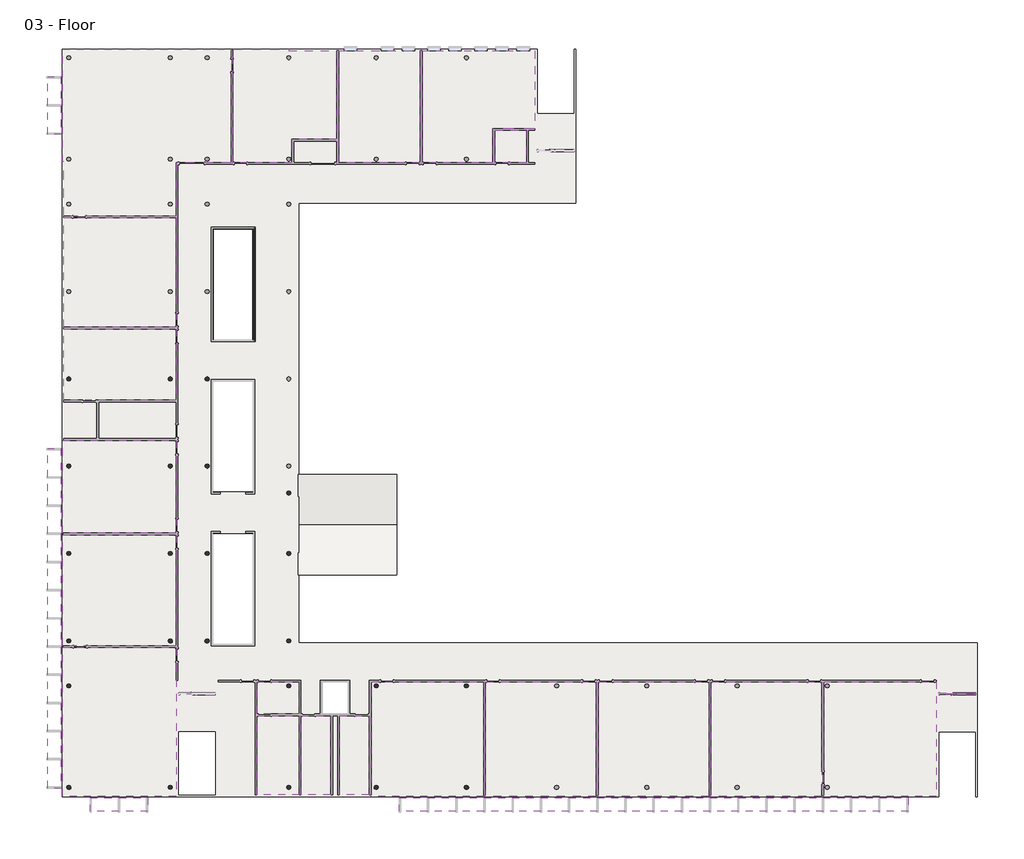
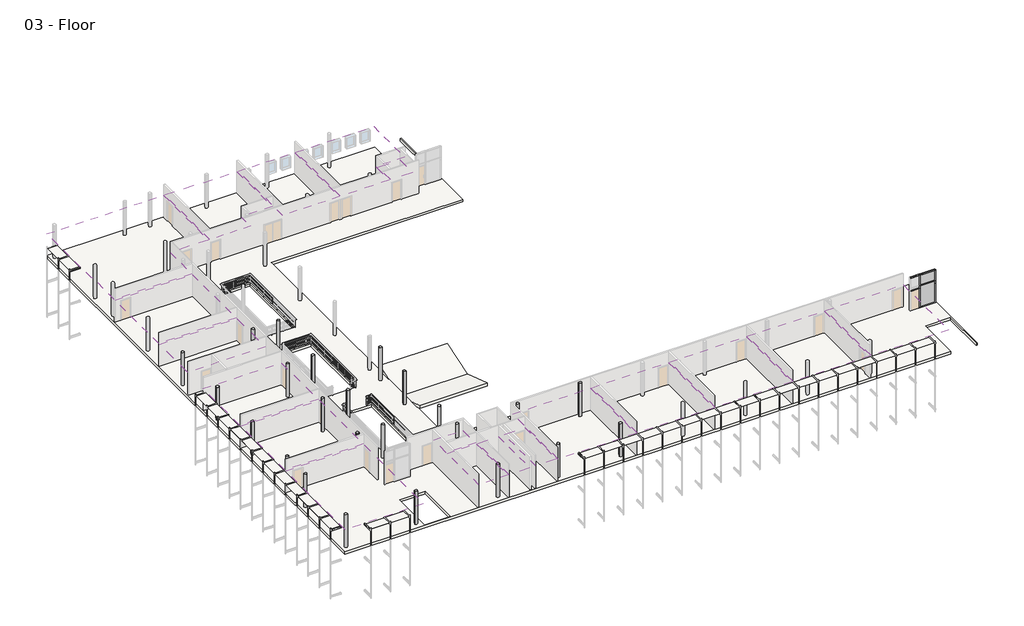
# One storey, part 3 of 4: 24 columns, 19 coverings, 13 members, 5 slabs, 2 plates, 1 roof.
"""IFC4 building model written with IfcOpenShell, lengths in millimetres."""

import ifcopenshell
import ifcopenshell.guid

model = None  # the IFC model being written
_history = None  # IfcOwnerHistory: only IFC2X3 demands one
_inside = {}  # id of a spatial element -> (the spatial element, [elements in it])
_under = {}  # id of a project, library or spatial element -> (it, [spatial elements below it])
_declared = {}  # id of a project -> (the project, [libraries it declares])
_typed = {}  # id of a type object -> (the type object, [elements of that type])
_made_of = {}  # id of a material, layer set ... -> (it, [elements and type objects made of it])


def new_model(schema):
    """Start an empty IFC model of exactly this schema.

    Asked for "IFC4X3", IfcOpenShell would pick the latest addendum, in which some entities
    have other attributes; the version numbers below select the first issue.
    IFC2X3 requires an IfcOwnerHistory on every rooted entity: one is made here for all.
    """
    global model, _history
    if schema == "IFC4X3":
        model = ifcopenshell.file(schema_version=(4, 3, 0, 0))
    else:
        model = ifcopenshell.file(schema=schema)
    _inside.clear()
    _under.clear()
    _declared.clear()
    _typed.clear()
    _made_of.clear()
    _history = None
    if model.schema == "IFC2X3":
        org = make("IfcOrganization", Name="unknown")
        user = make(
            "IfcPersonAndOrganization",
            ThePerson=make("IfcPerson", FamilyName="unknown"),
            TheOrganization=org,
        )
        app = make(
            "IfcApplication",
            ApplicationDeveloper=org,
            Version="unknown",
            ApplicationFullName="unknown",
            ApplicationIdentifier="unknown",
        )
        _history = make(
            "IfcOwnerHistory",
            OwningUser=user,
            OwningApplication=app,
            ChangeAction="ADDED",
            CreationDate=0,
        )
    return model


def make(cls, **values):
    """One entity of the class cls with the attributes given. An attribute that is None is left unset."""
    return model.create_entity(
        cls, **{name: value for name, value in values.items() if value is not None}
    )


def rooted(cls, **values):
    """An entity with a GlobalId (a new one), such as an element, a storey or a relation."""
    return make(cls, GlobalId=ifcopenshell.guid.new(), OwnerHistory=_history, **values)


def si_unit(unit_type, name, prefix=None):
    """IfcSIUnit, for example si_unit("LENGTHUNIT", "METRE", prefix="MILLI")."""
    return make("IfcSIUnit", UnitType=unit_type, Prefix=prefix, Name=name)


def assignment(units):
    """IfcUnitAssignment: the units of a project."""
    return None if units is None else make("IfcUnitAssignment", Units=units)


def point(xyz):
    """IfcCartesianPoint."""
    return None if xyz is None else make("IfcCartesianPoint", Coordinates=xyz)


def direction(xyz):
    """IfcDirection."""
    return None if xyz is None else make("IfcDirection", DirectionRatios=xyz)


def frame(location, z_axis=None, x_axis=None):
    """IfcAxis2Placement3D, a coordinate frame: its origin and axes. An axis left out is left unset."""
    return make(
        "IfcAxis2Placement3D",
        Location=point(location),
        Axis=direction(z_axis),
        RefDirection=direction(x_axis),
    )


def frame_2d(location, x_axis=None):
    """IfcAxis2Placement2D, a coordinate frame in the plane: its origin and x axis."""
    return make(
        "IfcAxis2Placement2D", Location=point(location), RefDirection=direction(x_axis)
    )


def origin():
    """The frame at (0, 0, 0) with its axes left unset."""
    return frame((0.0, 0.0, 0.0))


def place(relative_to, where):
    """IfcLocalPlacement: puts the frame where relative to a parent placement (None: the world)."""
    return make(
        "IfcLocalPlacement", PlacementRelTo=relative_to, RelativePlacement=where
    )


def context(
    kind, dimensions, precision=None, world=None, true_north=None, identifier=None
):
    """IfcGeometricRepresentationContext, for example the 3D "Model" context."""
    return make(
        "IfcGeometricRepresentationContext",
        ContextIdentifier=identifier,
        ContextType=kind,
        CoordinateSpaceDimension=dimensions,
        Precision=precision,
        WorldCoordinateSystem=world,
        TrueNorth=true_north,
    )


def project(units=None, contexts=None):
    """IfcProject with its units and contexts."""
    return rooted(
        "IfcProject",
        Name="project",
        RepresentationContexts=contexts,
        UnitsInContext=assignment(units),
    )


def spatial(cls, under=None, at=None, **own):
    """A site, building, storey or space (cls), placed at a placement, below another one or the project."""
    s = rooted(cls, ObjectPlacement=at, **own)
    if under is not None:
        _under.setdefault(under.id(), (under, []))[1].append(s)
    return s


def polyline(points):
    """IfcPolyline through the points."""
    return make("IfcPolyline", Points=[point(p) for p in points])


def circle_curve(where, radius):
    """IfcCircle in the frame where."""
    return make("IfcCircle", Position=where, Radius=radius)


def trimmed(basis, trim1, trim2, sense, master):
    """IfcTrimmedCurve: the piece of a basis curve between two trims."""
    return make(
        "IfcTrimmedCurve",
        BasisCurve=basis,
        Trim1=trim1,
        Trim2=trim2,
        SenseAgreement=sense,
        MasterRepresentation=master,
    )


def segment(curve, same_sense, transition):
    """IfcCompositeCurveSegment."""
    return make(
        "IfcCompositeCurveSegment",
        Transition=transition,
        SameSense=same_sense,
        ParentCurve=curve,
    )


def composite_curve(segments, self_intersect=None):
    """IfcCompositeCurve: segments joined end to end."""
    return make("IfcCompositeCurve", Segments=segments, SelfIntersect=self_intersect)


def outline(outer, holes=None, kind="AREA"):
    """IfcArbitraryClosedProfileDef: a profile drawn as a closed curve; with holes, ...WithVoids."""
    if holes is None:
        return make("IfcArbitraryClosedProfileDef", ProfileType=kind, OuterCurve=outer)
    return make(
        "IfcArbitraryProfileDefWithVoids",
        ProfileType=kind,
        OuterCurve=outer,
        InnerCurves=holes,
    )


def extrude(swept, where, along, depth):
    """IfcExtrudedAreaSolid: the profile swept, set in the frame where, extruded along a direction by depth."""
    return make(
        "IfcExtrudedAreaSolid",
        SweptArea=swept,
        Position=where,
        ExtrudedDirection=direction(along),
        Depth=depth,
    )


def shape(context_of_items, identifier, shape_type, items):
    """IfcShapeRepresentation: the items that make up one representation, for example the "Body"."""
    return make(
        "IfcShapeRepresentation",
        ContextOfItems=context_of_items,
        RepresentationIdentifier=identifier,
        RepresentationType=shape_type,
        Items=items,
    )


def source(mapping_origin, context_of_items, identifier, shape_type, items):
    """IfcRepresentationMap: a shape defined once, which mapped items show again and again."""
    return make(
        "IfcRepresentationMap",
        MappingOrigin=mapping_origin,
        MappedRepresentation=shape(context_of_items, identifier, shape_type, items),
    )


def transform(
    local_origin,
    x_axis=None,
    y_axis=None,
    z_axis=None,
    scale=None,
    scale2=None,
    scale3=None,
    uniform=True,
):
    """IfcCartesianTransformationOperator3D, or its non-uniform kind. x_axis, y_axis, z_axis: its Axis1, 2, 3."""
    if uniform:
        return make(
            "IfcCartesianTransformationOperator3D",
            Axis1=direction(x_axis),
            Axis2=direction(y_axis),
            LocalOrigin=point(local_origin),
            Scale=scale,
            Axis3=direction(z_axis),
        )
    return make(
        "IfcCartesianTransformationOperator3DnonUniform",
        Axis1=direction(x_axis),
        Axis2=direction(y_axis),
        LocalOrigin=point(local_origin),
        Scale=scale,
        Axis3=direction(z_axis),
        Scale2=scale2,
        Scale3=scale3,
    )


def mapped(mapping_source, mapping_target):
    """IfcMappedItem: shows the shape of a source again, moved by a transform."""
    return make(
        "IfcMappedItem", MappingSource=mapping_source, MappingTarget=mapping_target
    )


def made_of(thing, what):
    """Note that an element or type object is made of a material, layer set ...; save() writes the relation."""
    if what is not None:
        _made_of.setdefault(what.id(), (what, []))[1].append(thing)
    return thing


def element(
    cls,
    number,
    at=None,
    inside=None,
    cuts=None,
    type_object=None,
    material=None,
    context=None,
    identifier="Body",
    shape_type=None,
    held_by="IfcProductDefinitionShape",
    body=None,
    shapes=None,
    **own,
):
    """One element of the class cls, such as IfcWall. Its Tag is "e" and its number.

    at: its placement. inside: the storey or other place that contains it. cuts: it is an
    opening in that element (IfcRelVoidsElement). A single representation is given by context,
    identifier, shape_type and body (its items); several are given by shapes. held_by: the class
    of the entity that holds the representations. save() writes the other relations.
    """
    e = rooted(cls, Tag="e%d" % number, ObjectPlacement=at, **own)
    if body is not None:
        shapes = [shape(context, identifier, shape_type, body)]
    if shapes is not None:
        e.Representation = make(held_by, Representations=shapes)
    if inside is not None:
        _inside.setdefault(inside.id(), (inside, []))[1].append(e)
    if cuts is not None:
        rooted(
            "IfcRelVoidsElement", RelatingBuildingElement=cuts, RelatedOpeningElement=e
        )
    if type_object is not None:
        _typed.setdefault(type_object.id(), (type_object, []))[1].append(e)
    return made_of(e, material)


def aggregate(whole, parts):
    """IfcRelAggregates: a whole, such as a stair, and the parts it consists of."""
    return rooted("IfcRelAggregates", RelatingObject=whole, RelatedObjects=parts)


def save(model, path):
    """Write the relations noted so far, then the file.

    IfcRelAggregates (storeys below a building ...), IfcRelContainedInSpatialStructure (elements
    in a storey), IfcRelDefinesByType, IfcRelAssociatesMaterial and IfcRelDeclares: one each for
    every whole, place, type object, material and project.
    """
    for whole, parts in _under.values():
        aggregate(whole, parts)
    for where, things in _inside.values():
        rooted(
            "IfcRelContainedInSpatialStructure",
            RelatedElements=things,
            RelatingStructure=where,
        )
    for kind, things in _typed.values():
        rooted("IfcRelDefinesByType", RelatedObjects=things, RelatingType=kind)
    for what, things in _made_of.values():
        rooted("IfcRelAssociatesMaterial", RelatedObjects=things, RelatingMaterial=what)
    for by, libraries in _declared.values():
        rooted("IfcRelDeclares", RelatingContext=by, RelatedDefinitions=libraries)
    model.write(path)


def member_2b49869a(model_context):
    return source(origin(), model_context, "Body", "SweptSolid", [
        extrude(outline(polyline([(31.75, 63.5), (31.75, -63.5), (-31.75, -63.5), (-31.75, 63.5), (31.75, 63.5)])), frame((0.0, 0.0, -1219.2), z_axis=(0.0, 0.0, 1.0), x_axis=(1.0, 0.0, 0.0)), (0.0, 0.0, 1.0), 1219.2),
    ])


def member_75074519(model_context):
    return source(origin(), model_context, "Body", "SweptSolid", [
        extrude(outline(polyline([(0.0, 63.5), (0.0, -63.5), (-63.5, -63.5), (-63.5, 63.5), (0.0, 63.5)])), frame((0.0, 0.0, -1219.2), z_axis=(0.0, 0.0, 1.0), x_axis=(1.0, 0.0, 0.0)), (0.0, 0.0, 1.0), 1219.2),
    ])


def member_410c6227(model_context):
    return source(origin(), model_context, "Body", "SweptSolid", [
        extrude(outline(polyline([(31.75, 63.5), (31.75, -63.5), (-31.75, -63.5), (-31.75, 63.5), (31.75, 63.5)])), frame((0.0, 0.0, -914.4), z_axis=(0.0, 0.0, 1.0), x_axis=(1.0, 0.0, 0.0)), (0.0, 0.0, 1.0), 914.4),
    ])


def member_73c23c35(model_context):
    return source(origin(), model_context, "Body", "SweptSolid", [
        extrude(outline(polyline([(0.0, 63.5), (0.0, -63.5), (-63.5, -63.5), (-63.5, 63.5), (0.0, 63.5)])), frame((0.0, 0.0, -914.4), z_axis=(0.0, 0.0, 1.0), x_axis=(1.0, 0.0, 0.0)), (0.0, 0.0, 1.0), 914.4),
    ])


def member_6186cc23(model_context):
    return source(origin(), model_context, "Body", "SweptSolid", [
        extrude(outline(polyline([(31.75, 63.5), (31.75, -63.5), (-31.75, -63.5), (-31.75, 63.5), (31.75, 63.5)])), frame((0.0, 0.0, -2165.35), z_axis=(0.0, 0.0, 1.0), x_axis=(1.0, 0.0, 0.0)), (0.0, 0.0, 1.0), 2165.35),
    ])


def member_5d67b9fc(model_context):
    return source(origin(), model_context, "Body", "SweptSolid", [
        extrude(outline(polyline([(31.75, 63.5), (31.75, -63.5), (-31.75, -63.5), (-31.75, 63.5), (31.75, 63.5)])), frame((0.0, 0.0, -273.05), z_axis=(0.0, 0.0, 1.0), x_axis=(1.0, 0.0, 0.0)), (0.0, 0.0, 1.0), 273.05),
    ])


def member_a50b3cda(model_context):
    return source(origin(), model_context, "Body", "SweptSolid", [
        extrude(outline(polyline([(0.0, 63.5), (0.0, -63.5), (-63.5, -63.5), (-63.5, 63.5), (0.0, 63.5)])), frame((0.0, 0.0, -2165.35), z_axis=(0.0, 0.0, 1.0), x_axis=(1.0, 0.0, 0.0)), (0.0, 0.0, 1.0), 2165.35),
    ])


def member_c327c56d(model_context):
    return source(origin(), model_context, "Body", "SweptSolid", [
        extrude(outline(polyline([(0.0, 63.5), (0.0, -63.5), (-63.5, -63.5), (-63.5, 63.5), (0.0, 63.5)])), frame((0.0, 0.0, -273.05), z_axis=(0.0, 0.0, 1.0), x_axis=(1.0, 0.0, 0.0)), (0.0, 0.0, 1.0), 273.05),
    ])


def member_6c34f49c(model_context):
    return source(origin(), model_context, "Body", "SweptSolid", [
        extrude(outline(polyline([(0.0, 63.5), (0.0, -63.5), (-63.5, -63.5), (-63.5, 63.5), (0.0, 63.5)])), frame((0.0, 0.0, -285.75), z_axis=(0.0, 0.0, 1.0), x_axis=(1.0, 0.0, 0.0)), (0.0, 0.0, 1.0), 285.75),
    ])


def member_dff87739(model_context):
    return source(origin(), model_context, "Body", "SweptSolid", [
        extrude(outline(polyline([(31.75, 63.5), (31.75, -63.5), (-31.75, -63.5), (-31.75, 63.5), (31.75, 63.5)])), frame((0.0, 0.0, -285.75), z_axis=(0.0, 0.0, 1.0), x_axis=(1.0, 0.0, 0.0)), (0.0, 0.0, 1.0), 285.75),
    ])


def member_76223ac8(model_context):
    return source(origin(), model_context, "Body", "SweptSolid", [
        extrude(outline(polyline([(31.75, 63.5), (31.75, -63.5), (-31.75, -63.5), (-31.75, 63.5), (31.75, 63.5)])), frame((0.0, 0.0, -1263.65), z_axis=(0.0, 0.0, 1.0), x_axis=(1.0, 0.0, 0.0)), (0.0, 0.0, 1.0), 1263.65),
    ])


def member_e7b2e991(model_context):
    return source(origin(), model_context, "Body", "SweptSolid", [
        extrude(outline(polyline([(0.0, 63.5), (0.0, -63.5), (-63.5, -63.5), (-63.5, 63.5), (0.0, 63.5)])), frame((0.0, 0.0, -1263.65), z_axis=(0.0, 0.0, 1.0), x_axis=(1.0, 0.0, 0.0)), (0.0, 0.0, 1.0), 1263.65),
    ])


def system_panel_glazed_00df446d(model_context):
    return source(origin(), model_context, "Body", "SweptSolid", [
        extrude(outline(polyline([(0.0, -774.7), (0.0, -488.95), (0.0, 774.7), (2101.85, 774.7), (2343.15, 774.7), (2343.15, -488.95), (2343.15, -774.7), (2101.85, -774.7), (0.0, -774.7)])), frame((0.0, 19.05, 0.0), z_axis=(0.0, 1.0, 0.0), x_axis=(0.0, 0.0, 1.0)), (0.0, 0.0, 1.0), 25.4),
    ])


def system_panel_glazed_835a6d4f(model_context):
    return source(origin(), model_context, "Body", "SweptSolid", [
        extrude(outline(polyline([(0.0, -774.7), (0.0, -488.95), (0.0, 774.7), (1123.95, 774.7), (1123.95, -488.95), (1123.95, -774.7), (0.0, -774.7)])), frame((0.0, 19.05, 0.0), z_axis=(0.0, 1.0, 0.0), x_axis=(0.0, 0.0, 1.0)), (0.0, 0.0, 1.0), 25.4),
    ])


model = new_model("IFC4")

# Units and contexts
model_context = context("Model", 3, world=origin())
ifc_project = project(units=[si_unit("LENGTHUNIT", "METRE", prefix="MILLI")], contexts=[model_context])

# Site, building, storey
site = spatial("IfcSite", under=ifc_project)
building = spatial("IfcBuilding", under=site)
storey = spatial("IfcBuildingStorey", under=building, Name="03 - Floor", Elevation=7315.2)

# Columns
placement = place(None, origin())
element("IfcColumn", 1, ObjectType="Concrete-Round-Column : 12\"", at=placement, inside=storey, context=model_context, shape_type="SweptSolid", body=[
    extrude(outline(composite_curve([segment(trimmed(circle_curve(frame_2d((635.9207476, 30064.0)), 152.4), [point((788.3207476, 30064.0))], [point((483.5207476, 30064.0))], False, "CARTESIAN"), True, "CONTINUOUS"), segment(trimmed(circle_curve(frame_2d((635.9207476, 30064.0)), 152.4), [point((483.5207476, 30064.0))], [point((788.3207476, 30064.0))], False, "CARTESIAN"), True, "CONTINUOUS")], self_intersect=False)), frame((0.0, 0.0, 7315.2), z_axis=(0.0, 0.0, 1.0), x_axis=(1.0, 0.0, 0.0)), (0.0, 0.0, 1.0), 3657.6),
])
element("IfcColumn", 2, ObjectType="Concrete-Round-Column : 12\"", at=placement, inside=storey, context=model_context, shape_type="SweptSolid", body=[
    extrude(outline(composite_curve([segment(trimmed(circle_curve(frame_2d((635.9207476, 23764.8)), 152.4), [point((788.3207476, 23764.8))], [point((483.5207476, 23764.8))], False, "CARTESIAN"), True, "CONTINUOUS"), segment(trimmed(circle_curve(frame_2d((635.9207476, 23764.8)), 152.4), [point((483.5207476, 23764.8))], [point((788.3207476, 23764.8))], False, "CARTESIAN"), True, "CONTINUOUS")], self_intersect=False)), frame((0.0, 0.0, 7315.2), z_axis=(0.0, 0.0, 1.0), x_axis=(1.0, 0.0, 0.0)), (0.0, 0.0, 1.0), 3657.6),
])
element("IfcColumn", 3, ObjectType="Concrete-Round-Column : 12\"", at=placement, inside=storey, context=model_context, shape_type="SweptSolid", body=[
    extrude(outline(composite_curve([segment(trimmed(circle_curve(frame_2d((635.9207476, 17465.6)), 152.4), [point((788.3207476, 17465.6))], [point((483.5207476, 17465.6))], False, "CARTESIAN"), True, "CONTINUOUS"), segment(trimmed(circle_curve(frame_2d((635.9207476, 17465.6)), 152.4), [point((483.5207476, 17465.6))], [point((788.3207476, 17465.6))], False, "CARTESIAN"), True, "CONTINUOUS")], self_intersect=False)), frame((0.0, 0.0, 7315.2), z_axis=(0.0, 0.0, 1.0), x_axis=(1.0, 0.0, 0.0)), (0.0, 0.0, 1.0), 3657.6),
])
element("IfcColumn", 4, ObjectType="Concrete-Round-Column : 12\"", at=placement, inside=storey, context=model_context, shape_type="SweptSolid", body=[
    extrude(outline(composite_curve([segment(trimmed(circle_curve(frame_2d((635.9207476, 11166.4)), 152.4), [point((788.3207476, 11166.4))], [point((483.5207476, 11166.4))], False, "CARTESIAN"), True, "CONTINUOUS"), segment(trimmed(circle_curve(frame_2d((635.9207476, 11166.4)), 152.4), [point((483.5207476, 11166.4))], [point((788.3207476, 11166.4))], False, "CARTESIAN"), True, "CONTINUOUS")], self_intersect=False)), frame((0.0, 0.0, 7315.2), z_axis=(0.0, 0.0, 1.0), x_axis=(1.0, 0.0, 0.0)), (0.0, 0.0, 1.0), 3657.6),
])
element("IfcColumn", 5, ObjectType="Concrete-Round-Column : 12\"", at=placement, inside=storey, context=model_context, shape_type="SweptSolid", body=[
    extrude(outline(composite_curve([segment(trimmed(circle_curve(frame_2d((635.9207476, 7915.2)), 152.4), [point((788.3207476, 7915.2))], [point((483.5207476, 7915.2))], False, "CARTESIAN"), True, "CONTINUOUS"), segment(trimmed(circle_curve(frame_2d((635.9207476, 7915.2)), 152.4), [point((483.5207476, 7915.2))], [point((788.3207476, 7915.2))], False, "CARTESIAN"), True, "CONTINUOUS")], self_intersect=False)), frame((0.0, 0.0, 7315.2), z_axis=(0.0, 0.0, 1.0), x_axis=(1.0, 0.0, 0.0)), (0.0, 0.0, 1.0), 3657.6),
])
element("IfcColumn", 6, ObjectType="Concrete-Round-Column : 12\"", at=placement, inside=storey, context=model_context, shape_type="SweptSolid", body=[
    extrude(outline(composite_curve([segment(trimmed(circle_curve(frame_2d((635.9207476, 600.0)), 152.4), [point((788.3207476, 600.0))], [point((483.5207476, 600.0))], False, "CARTESIAN"), True, "CONTINUOUS"), segment(trimmed(circle_curve(frame_2d((635.9207476, 600.0)), 152.4), [point((483.5207476, 600.0))], [point((788.3207476, 600.0))], False, "CARTESIAN"), True, "CONTINUOUS")], self_intersect=False)), frame((0.0, 0.0, 7315.2), z_axis=(0.0, 0.0, 1.0), x_axis=(1.0, 0.0, 0.0)), (0.0, 0.0, 1.0), 3657.6),
])
element("IfcColumn", 7, ObjectType="Concrete-Round-Column : 12\"", at=placement, inside=storey, context=model_context, shape_type="SweptSolid", body=[
    extrude(outline(composite_curve([segment(trimmed(circle_curve(frame_2d((10592.7207476, 30064.0)), 152.4), [point((10745.1207476, 30064.0))], [point((10440.3207476, 30064.0))], False, "CARTESIAN"), True, "CONTINUOUS"), segment(trimmed(circle_curve(frame_2d((10592.7207476, 30064.0)), 152.4), [point((10440.3207476, 30064.0))], [point((10745.1207476, 30064.0))], False, "CARTESIAN"), True, "CONTINUOUS")], self_intersect=False)), frame((0.0, 0.0, 7315.2), z_axis=(0.0, 0.0, 1.0), x_axis=(1.0, 0.0, 0.0)), (0.0, 0.0, 1.0), 3657.6),
])
element("IfcColumn", 8, ObjectType="Concrete-Round-Column : 12\"", at=placement, inside=storey, context=model_context, shape_type="SweptSolid", body=[
    extrude(outline(composite_curve([segment(trimmed(circle_curve(frame_2d((10592.7207476, 23764.8)), 152.4), [point((10745.1207476, 23764.8))], [point((10440.3207476, 23764.8))], False, "CARTESIAN"), True, "CONTINUOUS"), segment(trimmed(circle_curve(frame_2d((10592.7207476, 23764.8)), 152.4), [point((10440.3207476, 23764.8))], [point((10745.1207476, 23764.8))], False, "CARTESIAN"), True, "CONTINUOUS")], self_intersect=False)), frame((0.0, 0.0, 7315.2), z_axis=(0.0, 0.0, 1.0), x_axis=(1.0, 0.0, 0.0)), (0.0, 0.0, 1.0), 3657.6),
])
element("IfcColumn", 9, ObjectType="Concrete-Round-Column : 12\"", at=placement, inside=storey, context=model_context, shape_type="SweptSolid", body=[
    extrude(outline(composite_curve([segment(trimmed(circle_curve(frame_2d((10592.7207476, 17465.6)), 152.4), [point((10745.1207476, 17465.6))], [point((10440.3207476, 17465.6))], False, "CARTESIAN"), True, "CONTINUOUS"), segment(trimmed(circle_curve(frame_2d((10592.7207476, 17465.6)), 152.4), [point((10440.3207476, 17465.6))], [point((10745.1207476, 17465.6))], False, "CARTESIAN"), True, "CONTINUOUS")], self_intersect=False)), frame((0.0, 0.0, 7315.2), z_axis=(0.0, 0.0, 1.0), x_axis=(1.0, 0.0, 0.0)), (0.0, 0.0, 1.0), 3657.6),
])
element("IfcColumn", 10, ObjectType="Concrete-Round-Column : 12\"", at=placement, inside=storey, context=model_context, shape_type="SweptSolid", body=[
    extrude(outline(composite_curve([segment(trimmed(circle_curve(frame_2d((10592.7207476, 11166.4)), 152.4), [point((10745.1207476, 11166.4))], [point((10440.3207476, 11166.4))], False, "CARTESIAN"), True, "CONTINUOUS"), segment(trimmed(circle_curve(frame_2d((10592.7207476, 11166.4)), 152.4), [point((10440.3207476, 11166.4))], [point((10745.1207476, 11166.4))], False, "CARTESIAN"), True, "CONTINUOUS")], self_intersect=False)), frame((0.0, 0.0, 7315.2), z_axis=(0.0, 0.0, 1.0), x_axis=(1.0, 0.0, 0.0)), (0.0, 0.0, 1.0), 3657.6),
])
element("IfcColumn", 11, ObjectType="Concrete-Round-Column : 12\"", at=placement, inside=storey, context=model_context, shape_type="SweptSolid", body=[
    extrude(outline(composite_curve([segment(trimmed(circle_curve(frame_2d((16485.5207476, 17465.6)), 152.4), [point((16637.9207476, 17465.6))], [point((16333.1207476, 17465.6))], False, "CARTESIAN"), True, "CONTINUOUS"), segment(trimmed(circle_curve(frame_2d((16485.5207476, 17465.6)), 152.4), [point((16333.1207476, 17465.6))], [point((16637.9207476, 17465.6))], False, "CARTESIAN"), True, "CONTINUOUS")], self_intersect=False)), frame((0.0, 0.0, 7315.2), z_axis=(0.0, 0.0, 1.0), x_axis=(1.0, 0.0, 0.0)), (0.0, 0.0, 1.0), 3657.6),
])
element("IfcColumn", 12, ObjectType="Concrete-Round-Column : 12\"", at=placement, inside=storey, context=model_context, shape_type="SweptSolid", body=[
    extrude(outline(composite_curve([segment(trimmed(circle_curve(frame_2d((16485.5207476, 11166.4)), 152.4), [point((16637.9207476, 11166.4))], [point((16333.1207476, 11166.4))], False, "CARTESIAN"), True, "CONTINUOUS"), segment(trimmed(circle_curve(frame_2d((16485.5207476, 11166.4)), 152.4), [point((16333.1207476, 11166.4))], [point((16637.9207476, 11166.4))], False, "CARTESIAN"), True, "CONTINUOUS")], self_intersect=False)), frame((0.0, 0.0, 7315.2), z_axis=(0.0, 0.0, 1.0), x_axis=(1.0, 0.0, 0.0)), (0.0, 0.0, 1.0), 3657.6),
])
element("IfcColumn", 13, ObjectType="Concrete-Round-Column : 12\"", at=placement, inside=storey, context=model_context, shape_type="SweptSolid", body=[
    extrude(outline(composite_curve([segment(trimmed(circle_curve(frame_2d((16485.5207476, 7915.2)), 152.4), [point((16637.9207476, 7915.2))], [point((16333.1207476, 7915.2))], False, "CARTESIAN"), True, "CONTINUOUS"), segment(trimmed(circle_curve(frame_2d((16485.5207476, 7915.2)), 152.4), [point((16333.1207476, 7915.2))], [point((16637.9207476, 7915.2))], False, "CARTESIAN"), True, "CONTINUOUS")], self_intersect=False)), frame((0.0, 0.0, 7315.2), z_axis=(0.0, 0.0, 1.0), x_axis=(1.0, 0.0, 0.0)), (0.0, 0.0, 1.0), 3657.6),
])
element("IfcColumn", 14, ObjectType="Concrete-Round-Column : 12\"", at=placement, inside=storey, context=model_context, shape_type="SweptSolid", body=[
    extrude(outline(composite_curve([segment(trimmed(circle_curve(frame_2d((16485.5207476, 600.0)), 152.4), [point((16637.9207476, 600.0))], [point((16333.1207476, 600.0))], False, "CARTESIAN"), True, "CONTINUOUS"), segment(trimmed(circle_curve(frame_2d((16485.5207476, 600.0)), 152.4), [point((16333.1207476, 600.0))], [point((16637.9207476, 600.0))], False, "CARTESIAN"), True, "CONTINUOUS")], self_intersect=False)), frame((0.0, 0.0, 7315.2), z_axis=(0.0, 0.0, 1.0), x_axis=(1.0, 0.0, 0.0)), (0.0, 0.0, 1.0), 3657.6),
])
element("IfcColumn", 15, ObjectType="Concrete-Round-Column : 12\"", at=placement, inside=storey, context=model_context, shape_type="SweptSolid", body=[
    extrude(outline(composite_curve([segment(trimmed(circle_curve(frame_2d((16485.5207476, 21821.7)), 152.4), [point((16637.9207476, 21821.7))], [point((16333.1207476, 21821.7))], False, "CARTESIAN"), True, "CONTINUOUS"), segment(trimmed(circle_curve(frame_2d((16485.5207476, 21821.7)), 152.4), [point((16333.1207476, 21821.7))], [point((16637.9207476, 21821.7))], False, "CARTESIAN"), True, "CONTINUOUS")], self_intersect=False)), frame((0.0, 0.0, 7315.2), z_axis=(0.0, 0.0, 1.0), x_axis=(1.0, 0.0, 0.0)), (0.0, 0.0, 1.0), 3657.6),
])
element("IfcColumn", 16, ObjectType="Concrete-Round-Column : 12\"", at=placement, inside=storey, context=model_context, shape_type="SweptSolid", body=[
    extrude(outline(composite_curve([segment(trimmed(circle_curve(frame_2d((22784.7207476, 7915.2)), 152.4), [point((22937.1207476, 7915.2))], [point((22632.3207476, 7915.2))], False, "CARTESIAN"), True, "CONTINUOUS"), segment(trimmed(circle_curve(frame_2d((22784.7207476, 7915.2)), 152.4), [point((22632.3207476, 7915.2))], [point((22937.1207476, 7915.2))], False, "CARTESIAN"), True, "CONTINUOUS")], self_intersect=False)), frame((0.0, 0.0, 7315.2), z_axis=(0.0, 0.0, 1.0), x_axis=(1.0, 0.0, 0.0)), (0.0, 0.0, 1.0), 3657.6),
])
element("IfcColumn", 17, ObjectType="Concrete-Round-Column : 12\"", at=placement, inside=storey, context=model_context, shape_type="SweptSolid", body=[
    extrude(outline(composite_curve([segment(trimmed(circle_curve(frame_2d((22784.7207476, 600.0)), 152.4), [point((22937.1207476, 600.0))], [point((22632.3207476, 600.0))], False, "CARTESIAN"), True, "CONTINUOUS"), segment(trimmed(circle_curve(frame_2d((22784.7207476, 600.0)), 152.4), [point((22632.3207476, 600.0))], [point((22937.1207476, 600.0))], False, "CARTESIAN"), True, "CONTINUOUS")], self_intersect=False)), frame((0.0, 0.0, 7315.2), z_axis=(0.0, 0.0, 1.0), x_axis=(1.0, 0.0, 0.0)), (0.0, 0.0, 1.0), 3657.6),
])
element("IfcColumn", 18, ObjectType="Concrete-Round-Column : 12\"", at=placement, inside=storey, context=model_context, shape_type="SweptSolid", body=[
    extrude(outline(composite_curve([segment(trimmed(circle_curve(frame_2d((29287.1207476, 7915.2)), 152.4), [point((29439.5207476, 7915.2))], [point((29134.7207476, 7915.2))], False, "CARTESIAN"), True, "CONTINUOUS"), segment(trimmed(circle_curve(frame_2d((29287.1207476, 7915.2)), 152.4), [point((29134.7207476, 7915.2))], [point((29439.5207476, 7915.2))], False, "CARTESIAN"), True, "CONTINUOUS")], self_intersect=False)), frame((0.0, 0.0, 7315.2), z_axis=(0.0, 0.0, 1.0), x_axis=(1.0, 0.0, 0.0)), (0.0, 0.0, 1.0), 3657.6),
])
element("IfcColumn", 19, ObjectType="Concrete-Round-Column : 12\"", at=placement, inside=storey, context=model_context, shape_type="SweptSolid", body=[
    extrude(outline(composite_curve([segment(trimmed(circle_curve(frame_2d((29287.1207476, 600.0)), 152.4), [point((29439.5207476, 600.0))], [point((29134.7207476, 600.0))], False, "CARTESIAN"), True, "CONTINUOUS"), segment(trimmed(circle_curve(frame_2d((29287.1207476, 600.0)), 152.4), [point((29134.7207476, 600.0))], [point((29439.5207476, 600.0))], False, "CARTESIAN"), True, "CONTINUOUS")], self_intersect=False)), frame((0.0, 0.0, 7315.2), z_axis=(0.0, 0.0, 1.0), x_axis=(1.0, 0.0, 0.0)), (0.0, 0.0, 1.0), 3657.6),
])
element("IfcColumn", 20, ObjectType="Concrete-Round-Column : 12\"", at=placement, inside=storey, context=model_context, shape_type="SweptSolid", body=[
    extrude(outline(composite_curve([segment(trimmed(circle_curve(frame_2d((7951.1207476, 30064.0)), 152.4), [point((8103.5207476, 30064.0))], [point((7798.7207476, 30064.0))], False, "CARTESIAN"), True, "CONTINUOUS"), segment(trimmed(circle_curve(frame_2d((7951.1207476, 30064.0)), 152.4), [point((7798.7207476, 30064.0))], [point((8103.5207476, 30064.0))], False, "CARTESIAN"), True, "CONTINUOUS")], self_intersect=False)), frame((0.0, 0.0, 7315.2), z_axis=(0.0, 0.0, 1.0), x_axis=(1.0, 0.0, 0.0)), (0.0, 0.0, 1.0), 3657.6),
])
element("IfcColumn", 21, ObjectType="Concrete-Round-Column : 12\"", at=placement, inside=storey, context=model_context, shape_type="SweptSolid", body=[
    extrude(outline(composite_curve([segment(trimmed(circle_curve(frame_2d((7951.1207476, 23764.8)), 152.4), [point((8103.5207476, 23764.8))], [point((7798.7207476, 23764.8))], False, "CARTESIAN"), True, "CONTINUOUS"), segment(trimmed(circle_curve(frame_2d((7951.1207476, 23764.8)), 152.4), [point((7798.7207476, 23764.8))], [point((8103.5207476, 23764.8))], False, "CARTESIAN"), True, "CONTINUOUS")], self_intersect=False)), frame((0.0, 0.0, 7315.2), z_axis=(0.0, 0.0, 1.0), x_axis=(1.0, 0.0, 0.0)), (0.0, 0.0, 1.0), 3657.6),
])
element("IfcColumn", 22, ObjectType="Concrete-Round-Column : 12\"", at=placement, inside=storey, context=model_context, shape_type="SweptSolid", body=[
    extrude(outline(composite_curve([segment(trimmed(circle_curve(frame_2d((7951.1207476, 17465.6)), 152.4), [point((8103.5207476, 17465.6))], [point((7798.7207476, 17465.6))], False, "CARTESIAN"), True, "CONTINUOUS"), segment(trimmed(circle_curve(frame_2d((7951.1207476, 17465.6)), 152.4), [point((7798.7207476, 17465.6))], [point((8103.5207476, 17465.6))], False, "CARTESIAN"), True, "CONTINUOUS")], self_intersect=False)), frame((0.0, 0.0, 7315.2), z_axis=(0.0, 0.0, 1.0), x_axis=(1.0, 0.0, 0.0)), (0.0, 0.0, 1.0), 3657.6),
])
element("IfcColumn", 23, ObjectType="Concrete-Round-Column : 12\"", at=placement, inside=storey, context=model_context, shape_type="SweptSolid", body=[
    extrude(outline(composite_curve([segment(trimmed(circle_curve(frame_2d((7951.1207476, 11166.4)), 152.4), [point((8103.5207476, 11166.4))], [point((7798.7207476, 11166.4))], False, "CARTESIAN"), True, "CONTINUOUS"), segment(trimmed(circle_curve(frame_2d((7951.1207476, 11166.4)), 152.4), [point((7798.7207476, 11166.4))], [point((8103.5207476, 11166.4))], False, "CARTESIAN"), True, "CONTINUOUS")], self_intersect=False)), frame((0.0, 0.0, 7315.2), z_axis=(0.0, 0.0, 1.0), x_axis=(1.0, 0.0, 0.0)), (0.0, 0.0, 1.0), 3657.6),
])
element("IfcColumn", 24, ObjectType="Concrete-Round-Column : 12\"", at=placement, inside=storey, context=model_context, shape_type="SweptSolid", body=[
    extrude(outline(composite_curve([segment(trimmed(circle_curve(frame_2d((7951.1207476, 600.0)), 152.4), [point((8103.5207476, 600.0))], [point((7798.7207476, 600.0))], False, "CARTESIAN"), True, "CONTINUOUS"), segment(trimmed(circle_curve(frame_2d((7951.1207476, 600.0)), 152.4), [point((7798.7207476, 600.0))], [point((8103.5207476, 600.0))], False, "CARTESIAN"), True, "CONTINUOUS")], self_intersect=False)), frame((0.0, 0.0, 7315.2), z_axis=(0.0, 0.0, 1.0), x_axis=(1.0, 0.0, 0.0)), (0.0, 0.0, 1.0), 3657.6),
])

# Coverings
element("IfcCovering", 25, ObjectType="2' x 2' ACT System", at=placement, inside=storey, context=model_context, shape_type="SweptSolid", body=[
    extrude(outline(polyline([(26099.4207476, 45672.3), (26099.4207476, 53724.1), (34202.0207476, 53724.1), (34202.0207476, 48110.7), (31192.1207476, 48110.7), (31192.1207476, 45672.3), (26099.4207476, 45672.3)])), frame((0.0, 0.0, 9753.6), z_axis=(0.0, 0.0, 1.0), x_axis=(1.0, 0.0, 0.0)), (0.0, 0.0, 1.0), 57.15),
])
element("IfcCovering", 26, ObjectType="2' x 2' ACT System", at=placement, inside=storey, context=model_context, shape_type="SweptSolid", body=[
    extrude(outline(polyline([(33630.5207476, 45672.3), (31319.1207476, 45672.3), (31319.1207476, 47983.7), (33630.5207476, 47983.7), (33630.5207476, 45672.3)])), frame((0.0, 0.0, 9753.6), z_axis=(0.0, 0.0, 1.0), x_axis=(1.0, 0.0, 0.0)), (0.0, 0.0, 1.0), 57.15),
])
element("IfcCovering", 27, ObjectType="2' x 2' ACT System", at=placement, inside=storey, context=model_context, shape_type="SweptSolid", body=[
    extrude(outline(polyline([(20079.6207476, 45672.3), (20079.6207476, 53724.1), (25972.4207476, 53724.1), (25972.4207476, 45672.3), (20079.6207476, 45672.3)])), frame((0.0, 0.0, 9753.6), z_axis=(0.0, 0.0, 1.0), x_axis=(1.0, 0.0, 0.0)), (0.0, 0.0, 1.0), 57.15),
])
element("IfcCovering", 28, ObjectType="2' x 2' ACT System", at=placement, inside=storey, context=model_context, shape_type="SweptSolid", body=[
    extrude(outline(polyline([(12459.6207476, 53825.7), (16485.5207476, 53825.7), (16485.5207476, 53724.1), (19952.6207476, 53724.1), (19952.6207476, 47344.7000002), (16714.1207476, 47344.7000002), (16714.1207476, 45672.3), (12459.6207476, 45672.3), (12459.6207476, 53825.7)])), frame((0.0, 0.0, 9753.6), z_axis=(0.0, 0.0, 1.0), x_axis=(1.0, 0.0, 0.0)), (0.0, 0.0, 1.0), 57.15),
])
element("IfcCovering", 29, ObjectType="2' x 2' ACT System", at=placement, inside=storey, context=model_context, shape_type="SweptSolid", body=[
    extrude(outline(polyline([(280.3207476, 41811.5), (280.3207476, 45735.8), (178.7207476, 45735.8), (178.7207476, 53825.7), (12332.6207476, 53825.7), (12332.6207476, 45672.3), (8357.5207476, 45672.3), (8357.5207476, 41811.5), (280.3207476, 41811.5)])), frame((0.0, 0.0, 9753.6), z_axis=(0.0, 0.0, 1.0), x_axis=(1.0, 0.0, 0.0)), (0.0, 0.0, 1.0), 57.15),
])
element("IfcCovering", 30, ObjectType="2' x 2' ACT System", at=placement, inside=storey, context=model_context, shape_type="SweptSolid", body=[
    extrude(outline(polyline([(8357.5207476, 33785.1), (280.3207476, 33785.1), (280.3207476, 41684.5), (8357.5207476, 41684.5), (8357.5207476, 33785.1)])), frame((0.0, 0.0, 9753.6), z_axis=(0.0, 0.0, 1.0), x_axis=(1.0, 0.0, 0.0)), (0.0, 0.0, 1.0), 57.15),
])
element("IfcCovering", 31, ObjectType="2' x 2' ACT System", at=placement, inside=storey, context=model_context, shape_type="SweptSolid", body=[
    extrude(outline(polyline([(8357.5207476, 28527.3), (280.3207476, 28527.3), (280.3207476, 33658.1), (8357.5207476, 33658.1), (8357.5207476, 28527.3)])), frame((0.0, 0.0, 9753.6), z_axis=(0.0, 0.0, 1.0), x_axis=(1.0, 0.0, 0.0)), (0.0, 0.0, 1.0), 57.15),
])
element("IfcCovering", 32, ObjectType="2' x 2' ACT System", at=placement, inside=storey, context=model_context, shape_type="SweptSolid", body=[
    extrude(outline(polyline([(8357.5207476, 18951.5), (178.7207476, 18951.5), (178.7207476, 25631.7), (8357.5207476, 25631.7), (8357.5207476, 18951.5)])), frame((0.0, 0.0, 9753.6), z_axis=(0.0, 0.0, 1.0), x_axis=(1.0, 0.0, 0.0)), (0.0, 0.0, 1.0), 57.15),
])
element("IfcCovering", 33, ObjectType="2' x 2' ACT System", at=placement, inside=storey, context=model_context, shape_type="SweptSolid", body=[
    extrude(outline(polyline([(8357.5207476, 10823.5), (178.7207476, 10823.5), (178.7207476, 18824.5), (8357.5207476, 18824.5), (8357.5207476, 10823.5)])), frame((0.0, 0.0, 9753.6), z_axis=(0.0, 0.0, 1.0), x_axis=(1.0, 0.0, 0.0)), (0.0, 0.0, 1.0), 57.15),
])
element("IfcCovering", 34, ObjectType="2' x 2' ACT System", at=placement, inside=storey, context=model_context, shape_type="SweptSolid", body=[
    extrude(outline(polyline([(8357.5207476, -47.7), (178.7207476, -47.7), (178.7207476, 10696.5), (8357.5207476, 10696.5), (8357.5207476, 8385.1), (8357.5207476, -47.7)])), frame((0.0, 0.0, 9753.6), z_axis=(0.0, 0.0, 1.0), x_axis=(1.0, 0.0, 0.0)), (0.0, 0.0, 1.0), 57.15),
])
element("IfcCovering", 35, ObjectType="2' x 2' ACT System", at=placement, inside=storey, context=model_context, shape_type="SweptSolid", body=[
    extrude(outline(polyline([(14186.8207476, 8207.3), (17234.8207476, 8207.3), (17234.8207476, 5895.9), (14186.8207476, 5895.9), (14186.8207476, 8207.3)])), frame((0.0, 0.0, 9753.6), z_axis=(0.0, 0.0, 1.0), x_axis=(1.0, 0.0, 0.0)), (0.0, 0.0, 1.0), 57.15),
])
element("IfcCovering", 36, ObjectType="2' x 2' ACT System", at=placement, inside=storey, context=model_context, shape_type="SweptSolid", body=[
    extrude(outline(polyline([(17234.8207476, 5768.9), (17234.8207476, 53.9), (14186.8207476, 53.9), (14186.8207476, 5768.9), (17234.8207476, 5768.9)])), frame((0.0, 0.0, 9753.6), z_axis=(0.0, 0.0, 1.0), x_axis=(1.0, 0.0, 0.0)), (0.0, 0.0, 1.0), 57.15),
])
element("IfcCovering", 37, ObjectType="2' x 2' ACT System", at=placement, inside=storey, context=model_context, shape_type="SweptSolid", body=[
    extrude(outline(polyline([(19520.8207476, 53.9), (17361.8207476, 53.9), (17361.8207476, 5768.9), (19520.8207476, 5768.9), (19520.8207476, 53.9)])), frame((0.0, 0.0, 9753.6), z_axis=(0.0, 0.0, 1.0), x_axis=(1.0, 0.0, 0.0)), (0.0, 0.0, 1.0), 57.15),
])
element("IfcCovering", 38, ObjectType="2' x 2' ACT System", at=placement, inside=storey, context=model_context, shape_type="SweptSolid", body=[
    extrude(outline(polyline([(22302.1207476, 5768.9), (22302.1207476, 53.9), (20130.4207476, 53.9), (20130.4207476, 5768.9), (22302.1207476, 5768.9)])), frame((0.0, 0.0, 9753.6), z_axis=(0.0, 0.0, 1.0), x_axis=(1.0, 0.0, 0.0)), (0.0, 0.0, 1.0), 57.15),
])
element("IfcCovering", 39, ObjectType="2' x 2' ACT System", at=placement, inside=storey, context=model_context, shape_type="SweptSolid", body=[
    extrude(outline(polyline([(30531.7207476, 8207.3), (30531.7207476, -47.7), (22429.1207476, -47.7), (22429.1207476, 8207.3), (30531.7207476, 8207.3)])), frame((0.0, 0.0, 9753.6), z_axis=(0.0, 0.0, 1.0), x_axis=(1.0, 0.0, 0.0)), (0.0, 0.0, 1.0), 57.15),
])
element("IfcCovering", 40, ObjectType="2' x 2' ACT System", at=placement, inside=storey, context=model_context, shape_type="SweptSolid", body=[
    extrude(outline(polyline([(38659.7207476, 8207.3), (38659.7207476, -47.7), (30658.7207476, -47.7), (30658.7207476, 8207.3), (38659.7207476, 8207.3)])), frame((0.0, 0.0, 9753.6), z_axis=(0.0, 0.0, 1.0), x_axis=(1.0, 0.0, 0.0)), (0.0, 0.0, 1.0), 57.15),
])
element("IfcCovering", 41, ObjectType="2' x 2' ACT System", at=placement, inside=storey, context=model_context, shape_type="SweptSolid", body=[
    extrude(outline(polyline([(46787.7207476, 8207.3), (46787.7207476, -47.7), (38786.7207476, -47.7), (38786.7207476, 8207.3), (46787.7207476, 8207.3)])), frame((0.0, 0.0, 9753.6), z_axis=(0.0, 0.0, 1.0), x_axis=(1.0, 0.0, 0.0)), (0.0, 0.0, 1.0), 57.15),
])
element("IfcCovering", 42, ObjectType="2' x 2' ACT System", at=placement, inside=storey, context=model_context, shape_type="SweptSolid", body=[
    extrude(outline(polyline([(54915.7207476, 8207.3), (54915.7207476, -47.7), (46914.7207476, -47.7), (46914.7207476, 8207.3), (54915.7207476, 8207.3)])), frame((0.0, 0.0, 9753.6), z_axis=(0.0, 0.0, 1.0), x_axis=(1.0, 0.0, 0.0)), (0.0, 0.0, 1.0), 57.15),
])
element("IfcCovering", 43, ObjectType="2' x 2' ACT System", at=placement, inside=storey, context=model_context, shape_type="SweptSolid", body=[
    extrude(outline(polyline([(63145.3207476, 8207.3), (63145.3207476, -47.7), (55042.7207476, -47.7), (55042.7207476, 8207.3), (63145.3207476, 8207.3)])), frame((0.0, 0.0, 9753.6), z_axis=(0.0, 0.0, 1.0), x_axis=(1.0, 0.0, 0.0)), (0.0, 0.0, 1.0), 57.15),
])

# Members
member_shape = member_2b49869a(model_context)
element("IfcMember", 44, ObjectType="Rectangular Mullion : 2.5\" x 5\" rectangular", at=placement, inside=storey, context=model_context, shape_type="MappedRepresentation", body=[
    mapped(member_shape, transform((64358.1707476, 7356.4, 9753.6), x_axis=(1.0, 0.0, 0.0), y_axis=(0.0, -1.0, 0.0), z_axis=(0.0, 0.0, -1.0))),
])
member_2_shape = member_75074519(model_context)
element("IfcMember", 45, ObjectType="Rectangular Mullion : 2.5\" x 5\" rectangular", at=placement, inside=storey, context=model_context, shape_type="MappedRepresentation", body=[
    mapped(member_2_shape, transform((66002.8207476, 7356.4, 9753.6), x_axis=(1.0, 0.0, 0.0), y_axis=(0.0, -1.0, 0.0), z_axis=(0.0, 0.0, -1.0))),
])
member_3_shape = member_410c6227(model_context)
element("IfcMember", 46, ObjectType="Rectangular Mullion : 2.5\" x 5\" rectangular", at=placement, inside=storey, context=model_context, shape_type="MappedRepresentation", body=[
    mapped(member_3_shape, transform((64326.4207476, 7356.4, 9480.55), x_axis=(0.0, 0.0, 1.0), y_axis=(0.0, -1.0, 0.0), z_axis=(1.0, 0.0, 0.0))),
])
member_4_shape = member_73c23c35(model_context)
element("IfcMember", 47, ObjectType="Rectangular Mullion : 2.5\" x 5\" rectangular", at=placement, inside=storey, context=model_context, shape_type="MappedRepresentation", body=[
    mapped(member_4_shape, transform((64326.4207476, 7356.4, 10972.8), x_axis=(0.0, 0.0, 1.0), y_axis=(0.0, -1.0, 0.0), z_axis=(1.0, 0.0, 0.0))),
])
member_5_shape = member_6186cc23(model_context)
element("IfcMember", 48, ObjectType="Rectangular Mullion : 2.5\" x 5\" rectangular", at=placement, inside=storey, context=model_context, shape_type="MappedRepresentation", body=[
    mapped(member_5_shape, transform((64358.1707476, 7356.4, 7315.2), x_axis=(1.0, 0.0, 0.0), y_axis=(0.0, -1.0, 0.0), z_axis=(0.0, 0.0, -1.0))),
])
member_6_shape = member_5d67b9fc(model_context)
element("IfcMember", 49, ObjectType="Rectangular Mullion : 2.5\" x 5\" rectangular", at=placement, inside=storey, context=model_context, shape_type="MappedRepresentation", body=[
    mapped(member_6_shape, transform((64358.1707476, 7356.4, 9480.55), x_axis=(1.0, 0.0, 0.0), y_axis=(0.0, -1.0, 0.0), z_axis=(0.0, 0.0, -1.0))),
])
member_7_shape = member_a50b3cda(model_context)
element("IfcMember", 50, ObjectType="Rectangular Mullion : 2.5\" x 5\" rectangular", at=placement, inside=storey, context=model_context, shape_type="MappedRepresentation", body=[
    mapped(member_7_shape, transform((66002.8207476, 7356.4, 7315.2), x_axis=(1.0, 0.0, 0.0), y_axis=(0.0, -1.0, 0.0), z_axis=(0.0, 0.0, -1.0))),
])
member_8_shape = member_c327c56d(model_context)
element("IfcMember", 51, ObjectType="Rectangular Mullion : 2.5\" x 5\" rectangular", at=placement, inside=storey, context=model_context, shape_type="MappedRepresentation", body=[
    mapped(member_8_shape, transform((66002.8207476, 7356.4, 9480.55), x_axis=(1.0, 0.0, 0.0), y_axis=(0.0, -1.0, 0.0), z_axis=(0.0, 0.0, -1.0))),
])
member_9_shape = member_6c34f49c(model_context)
element("IfcMember", 52, ObjectType="Rectangular Mullion : 2.5\" x 5\" rectangular", at=placement, inside=storey, context=model_context, shape_type="MappedRepresentation", body=[
    mapped(member_9_shape, transform((64389.9207476, 7356.4, 7315.2), x_axis=(0.0, 0.0, -1.0), y_axis=(0.0, -1.0, 0.0), z_axis=(-1.0, 0.0, 0.0))),
])
member_10_shape = member_dff87739(model_context)
element("IfcMember", 53, ObjectType="Rectangular Mullion : 2.5\" x 5\" rectangular", at=placement, inside=storey, context=model_context, shape_type="MappedRepresentation", body=[
    mapped(member_10_shape, transform((64675.6707476, 7356.4, 9753.6), x_axis=(0.0, 0.0, 1.0), y_axis=(0.0, -1.0, 0.0), z_axis=(1.0, 0.0, 0.0))),
])
member_11_shape = member_76223ac8(model_context)
element("IfcMember", 54, ObjectType="Rectangular Mullion : 2.5\" x 5\" rectangular", at=placement, inside=storey, context=model_context, shape_type="MappedRepresentation", body=[
    mapped(member_11_shape, transform((65939.3207476, 7356.4, 9753.6), x_axis=(0.0, 0.0, 1.0), y_axis=(0.0, -1.0, 0.0), z_axis=(1.0, 0.0, 0.0))),
])
member_12_shape = member_e7b2e991(model_context)
element("IfcMember", 55, ObjectType="Rectangular Mullion : 2.5\" x 5\" rectangular", at=placement, inside=storey, context=model_context, shape_type="MappedRepresentation", body=[
    mapped(member_12_shape, transform((65939.3207476, 7356.4, 10972.8), x_axis=(0.0, 0.0, 1.0), y_axis=(0.0, -1.0, 0.0), z_axis=(1.0, 0.0, 0.0))),
])
element("IfcMember", 56, ObjectType="Rectangular Mullion : 2.5\" x 5\" rectangular", at=placement, inside=storey, context=model_context, shape_type="MappedRepresentation", body=[
    mapped(member_9_shape, transform((64675.6707476, 7356.4, 10972.8), x_axis=(0.0, 0.0, 1.0), y_axis=(0.0, -1.0, 0.0), z_axis=(1.0, 0.0, 0.0))),
])

# Plates
system_panel_glazed_shape = system_panel_glazed_00df446d(model_context)
element("IfcPlate", 57, ObjectType="System Panel : Glazed", at=placement, inside=storey, context=model_context, shape_type="MappedRepresentation", body=[
    mapped(system_panel_glazed_shape, transform((65164.6207476, 7356.4, 7378.7), x_axis=(1.0, 0.0, 0.0), y_axis=(0.0, 1.0, 0.0), z_axis=(0.0, 0.0, 1.0))),
])
system_panel_glazed_2_shape = system_panel_glazed_835a6d4f(model_context)
element("IfcPlate", 58, ObjectType="System Panel : Glazed", at=placement, inside=storey, context=model_context, shape_type="MappedRepresentation", body=[
    mapped(system_panel_glazed_2_shape, transform((65164.6207476, 7356.4, 9785.35), x_axis=(1.0, 0.0, 0.0), y_axis=(0.0, 1.0, 0.0), z_axis=(0.0, 0.0, 1.0))),
])

# Roof
element("IfcRoof", 59, ObjectType="Generic - 12\"", at=placement, inside=storey, context=model_context, shape_type="SweptSolid", body=[
    extrude(outline(polyline([(15941.6, 7839.6874103), (19548.4, 6637.4207436), (23155.2, 7839.6874103), (23155.2, 7518.4), (19548.4, 6316.1333333), (15941.6, 7518.4), (15941.6, 7839.6874103)])), frame((17184.0207476, 0.0, 0.0), z_axis=(1.0, 0.0, 0.0), x_axis=(0.0, 1.0, 0.0)), (0.0, 0.0, 1.0), 7067.790772),
])

# Slabs
element("IfcSlab", 60, ObjectType="8\" Hollow Core Plank w/2\" Topping", at=placement, inside=storey, context=model_context, shape_type="SweptSolid", body=[
    extrude(outline(polyline([(159.6707476, -66.75), (159.6707476, 53844.75), (34405.2207476, 53844.75), (34405.2207476, 49177.5), (37046.8207476, 49177.5), (37046.8207476, 53844.75), (37167.4707476, 53844.75), (37167.4707476, 42732.25), (17203.0707476, 42732.25), (17203.0707476, 11020.35), (66123.4707476, 11020.35), (66123.4707476, -66.75), (65990.1207476, -66.75), (65990.1207476, 4600.5), (63348.5207476, 4600.5), (63348.5207476, -66.75), (159.6707476, -66.75)]), holes=[polyline([(13861.9313552, 32908.8), (13861.9313552, 40833.6), (11071.9313551, 40833.6), (11071.9313551, 32908.8), (13861.9313552, 32908.8)]), polyline([(13871.9313552, 21936.0), (13871.9313552, 29860.8), (11051.7313551, 29860.8), (11051.7313551, 21936.0), (13871.9313552, 21936.0)]), polyline([(13871.9313551, 10963.2), (13871.9313551, 18888.0), (11051.7313551, 18888.0), (11051.7313551, 10963.2), (13871.9313551, 10963.2)]), polyline([(11202.3207476, 53.9), (11202.3207476, 4600.5), (8560.7207476, 4600.5), (8560.7207476, 53.9), (11202.3207476, 53.9)]), polyline([(20765.4207476, 5895.9), (20765.4207476, 8207.3), (18885.8207476, 8207.3), (18885.8207476, 5895.9), (20765.4207476, 5895.9)])]), frame((0.0, 0.0, 7061.2), z_axis=(0.0, 0.0, 1.0), x_axis=(1.0, 0.0, 0.0)), (0.0, 0.0, 1.0), 254.0),
])
element("IfcSlab", 61, ObjectType="Metal Sunscreen", at=placement, inside=storey, context=model_context, shape_type="SweptSolid", body=[
    extrude(outline(polyline([(6325.5207476, -1127.2), (2159.9207476, -1127.2), (2159.9207476, -162.0), (6325.5207476, -162.0), (6325.5207476, -1127.2)])), frame((0.0, 0.0, 9740.9), z_axis=(0.0, 0.0, 1.0), x_axis=(1.0, 0.0, 0.0)), (0.0, 0.0, 1.0), 12.7),
])
element("IfcSlab", 62, ObjectType="Metal Sunscreen", at=placement, inside=storey, context=model_context, shape_type="SweptSolid", body=[
    extrude(outline(polyline([(61126.0207476, -1127.2), (24448.4207476, -1127.2), (24448.4207476, -162.0), (61126.0207476, -162.0), (61126.0207476, -1127.2)])), frame((0.0, 0.0, 9740.9), z_axis=(0.0, 0.0, 1.0), x_axis=(1.0, 0.0, 0.0)), (0.0, 0.0, 1.0), 12.7),
])
element("IfcSlab", 63, ObjectType="Metal Sunscreen", at=placement, inside=storey, context=model_context, shape_type="SweptSolid", body=[
    extrude(outline(polyline([(64.4207476, 549.2), (-900.7792524, 549.2), (-900.7792524, 25034.8), (64.4207476, 25034.8), (64.4207476, 549.2)])), frame((0.0, 0.0, 9740.9), z_axis=(0.0, 0.0, 1.0), x_axis=(1.0, 0.0, 0.0)), (0.0, 0.0, 1.0), 12.7),
])
element("IfcSlab", 64, ObjectType="Metal Sunscreen", at=placement, inside=storey, context=model_context, shape_type="SweptSolid", body=[
    extrude(outline(polyline([(64.4207476, 47697.95), (-900.7792524, 47697.95), (-900.7792524, 51863.55), (64.4207476, 51863.55), (64.4207476, 47697.95)])), frame((0.0, 0.0, 9740.9), z_axis=(0.0, 0.0, 1.0), x_axis=(1.0, 0.0, 0.0)), (0.0, 0.0, 1.0), 12.7),
])

save(model, "model.ifc")
